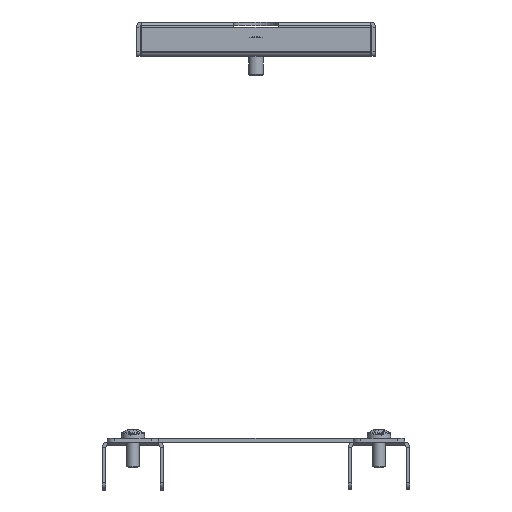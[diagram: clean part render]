
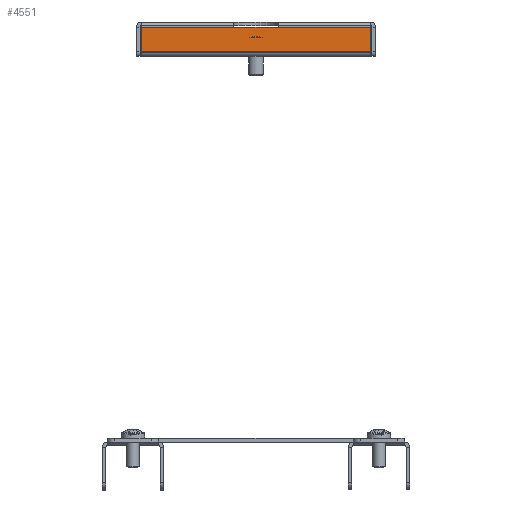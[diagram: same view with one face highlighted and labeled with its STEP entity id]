
A CAD part, front view. The second image highlights one B-rep face of the part: STEP entity #4551.
In plain terms, the highlighted planar face has unit normal (0, -1, 0).
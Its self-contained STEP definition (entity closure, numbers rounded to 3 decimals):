
#19 = DIRECTION ( 'NONE',  ( 1., 0., 0. ) ) ;
#129 = VERTEX_POINT ( 'NONE', #15090 ) ;
#342 = VECTOR ( 'NONE', #3502, 1000. ) ;
#629 = CARTESIAN_POINT ( 'NONE',  ( -46.5, -576.6, 14. ) ) ;
#1548 = VECTOR ( 'NONE', #8547, 1000. ) ;
#3502 = DIRECTION ( 'NONE',  ( -1., 0., 0. ) ) ;
#3977 = LINE ( 'NONE', #12448, #23723 ) ;
#4494 = VERTEX_POINT ( 'NONE', #6733 ) ;
#4551 = ADVANCED_FACE ( 'NONE', ( #8846 ), #19005, .F. ) ;
#4752 = DIRECTION ( 'NONE',  ( 0., 0., -1. ) ) ;
#4753 = CARTESIAN_POINT ( 'NONE',  ( -9., -576.6, 2.1 ) ) ;
#5083 = LINE ( 'NONE', #18946, #14599 ) ;
#5497 = CARTESIAN_POINT ( 'NONE',  ( -46.5, -576.6, 2.1 ) ) ;
#5637 = EDGE_CURVE ( 'NONE', #16870, #16036, #20218, .T. ) ;
#6733 = CARTESIAN_POINT ( 'NONE',  ( -46.5, -576.6, 11.9 ) ) ;
#6912 = EDGE_CURVE ( 'NONE', #16496, #7197, #3977, .T. ) ;
#7197 = VERTEX_POINT ( 'NONE', #17557 ) ;
#7221 = LINE ( 'NONE', #5497, #342 ) ;
#8071 = CARTESIAN_POINT ( 'NONE',  ( 46.5, -576.6, 1.5 ) ) ;
#8547 = DIRECTION ( 'NONE',  ( 0., 0., 1. ) ) ;
#8579 = EDGE_CURVE ( 'NONE', #16870, #4494, #12940, .T. ) ;
#8649 = DIRECTION ( 'NONE',  ( -1., 0., 0. ) ) ;
#8846 = FACE_OUTER_BOUND ( 'NONE', #16087, .T. ) ;
#9152 = ORIENTED_EDGE ( 'NONE', *, *, #5637, .F. ) ;
#10284 = EDGE_CURVE ( 'NONE', #16036, #7197, #5083, .T. ) ;
#11585 = ORIENTED_EDGE ( 'NONE', *, *, #6912, .T. ) ;
#11984 = ORIENTED_EDGE ( 'NONE', *, *, #8579, .T. ) ;
#12448 = CARTESIAN_POINT ( 'NONE',  ( -9., -576.6, 2.1 ) ) ;
#12842 = AXIS2_PLACEMENT_3D ( 'NONE', #19137, #23372, #4752 ) ;
#12940 = LINE ( 'NONE', #20592, #14089 ) ;
#14089 = VECTOR ( 'NONE', #16755, 1000. ) ;
#14507 = LINE ( 'NONE', #629, #1548 ) ;
#14599 = VECTOR ( 'NONE', #8649, 1000. ) ;
#15079 = EDGE_CURVE ( 'NONE', #129, #4494, #14507, .T. ) ;
#15090 = CARTESIAN_POINT ( 'NONE',  ( -46.5, -576.6, 2.1 ) ) ;
#15225 = EDGE_CURVE ( 'NONE', #16496, #129, #7221, .T. ) ;
#16036 = VERTEX_POINT ( 'NONE', #19039 ) ;
#16087 = EDGE_LOOP ( 'NONE', ( #11984, #23216, #22693, #11585, #19399, #9152 ) ) ;
#16129 = DIRECTION ( 'NONE',  ( 0., 0., -1. ) ) ;
#16496 = VERTEX_POINT ( 'NONE', #4753 ) ;
#16721 = CARTESIAN_POINT ( 'NONE',  ( 46.5, -576.6, 11.9 ) ) ;
#16755 = DIRECTION ( 'NONE',  ( -1., 0., 0. ) ) ;
#16870 = VERTEX_POINT ( 'NONE', #16721 ) ;
#17170 = VECTOR ( 'NONE', #16129, 1000. ) ;
#17557 = CARTESIAN_POINT ( 'NONE',  ( 9., -576.6, 2.1 ) ) ;
#18946 = CARTESIAN_POINT ( 'NONE',  ( -46.5, -576.6, 2.1 ) ) ;
#19005 = PLANE ( 'NONE',  #12842 ) ;
#19039 = CARTESIAN_POINT ( 'NONE',  ( 46.5, -576.6, 2.1 ) ) ;
#19137 = CARTESIAN_POINT ( 'NONE',  ( 0., -576.6, 0. ) ) ;
#19399 = ORIENTED_EDGE ( 'NONE', *, *, #10284, .F. ) ;
#20218 = LINE ( 'NONE', #8071, #17170 ) ;
#20592 = CARTESIAN_POINT ( 'NONE',  ( 46.5, -576.6, 11.9 ) ) ;
#22693 = ORIENTED_EDGE ( 'NONE', *, *, #15225, .F. ) ;
#23216 = ORIENTED_EDGE ( 'NONE', *, *, #15079, .F. ) ;
#23372 = DIRECTION ( 'NONE',  ( 0., 1., 0. ) ) ;
#23723 = VECTOR ( 'NONE', #19, 1000. ) ;
